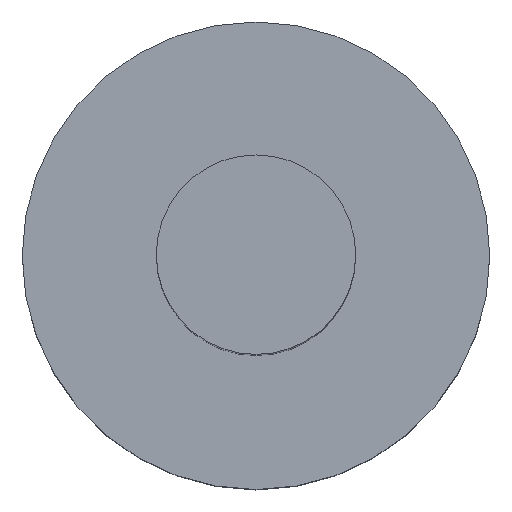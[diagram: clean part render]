
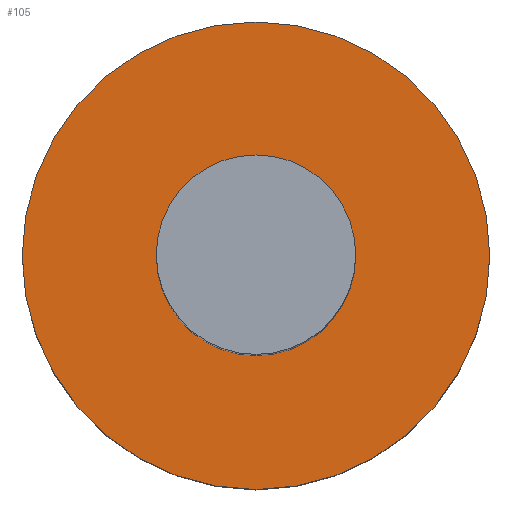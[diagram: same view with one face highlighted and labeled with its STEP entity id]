
A CAD part, top view. The second image highlights one B-rep face of the part: STEP entity #105.
In plain terms, the highlighted planar face has unit normal (0, 0, 1).
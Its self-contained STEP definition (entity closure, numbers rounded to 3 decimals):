
#21 = EDGE_CURVE('',#22,#22,#24,.T.);
#22 = VERTEX_POINT('',#23);
#23 = CARTESIAN_POINT('',(1.5,4.,-14.95));
#24 = SURFACE_CURVE('',#25,(#30,#42),.PCURVE_S1.);
#25 = CIRCLE('',#26,1.5);
#26 = AXIS2_PLACEMENT_3D('',#27,#28,#29);
#27 = CARTESIAN_POINT('',(0.,4.,-14.95));
#28 = DIRECTION('',(0.,0.,1.));
#29 = DIRECTION('',(1.,0.,-0.));
#30 = PCURVE('',#31,#36);
#31 = CYLINDRICAL_SURFACE('',#32,1.5);
#32 = AXIS2_PLACEMENT_3D('',#33,#34,#35);
#33 = CARTESIAN_POINT('',(0.,4.,-16.55));
#34 = DIRECTION('',(0.,0.,1.));
#35 = DIRECTION('',(1.,0.,-0.));
#36 = DEFINITIONAL_REPRESENTATION('',(#37),#41);
#37 = LINE('',#38,#39);
#38 = CARTESIAN_POINT('',(0.,1.6));
#39 = VECTOR('',#40,1.);
#40 = DIRECTION('',(1.,0.));
#41 = ( GEOMETRIC_REPRESENTATION_CONTEXT(2) 
PARAMETRIC_REPRESENTATION_CONTEXT() REPRESENTATION_CONTEXT('2D SPACE',''
  ) );
#42 = PCURVE('',#43,#48);
#43 = PLANE('',#44);
#44 = AXIS2_PLACEMENT_3D('',#45,#46,#47);
#45 = CARTESIAN_POINT('',(0.,4.,-14.95));
#46 = DIRECTION('',(0.,0.,1.));
#47 = DIRECTION('',(1.,0.,-0.));
#48 = DEFINITIONAL_REPRESENTATION('',(#49),#53);
#49 = CIRCLE('',#50,1.5);
#50 = AXIS2_PLACEMENT_2D('',#51,#52);
#51 = CARTESIAN_POINT('',(0.,0.));
#52 = DIRECTION('',(1.,0.));
#53 = ( GEOMETRIC_REPRESENTATION_CONTEXT(2) 
PARAMETRIC_REPRESENTATION_CONTEXT() REPRESENTATION_CONTEXT('2D SPACE',''
  ) );
#105 = ADVANCED_FACE('',(#106,#109),#43,.T.);
#106 = FACE_BOUND('',#107,.T.);
#107 = EDGE_LOOP('',(#108));
#108 = ORIENTED_EDGE('',*,*,#21,.T.);
#109 = FACE_BOUND('',#110,.T.);
#110 = EDGE_LOOP('',(#111));
#111 = ORIENTED_EDGE('',*,*,#112,.F.);
#112 = EDGE_CURVE('',#113,#113,#115,.T.);
#113 = VERTEX_POINT('',#114);
#114 = CARTESIAN_POINT('',(0.64,4.,-14.95));
#115 = SURFACE_CURVE('',#116,(#121,#128),.PCURVE_S1.);
#116 = CIRCLE('',#117,0.64);
#117 = AXIS2_PLACEMENT_3D('',#118,#119,#120);
#118 = CARTESIAN_POINT('',(0.,4.,-14.95));
#119 = DIRECTION('',(0.,0.,1.));
#120 = DIRECTION('',(1.,0.,-0.));
#121 = PCURVE('',#43,#122);
#122 = DEFINITIONAL_REPRESENTATION('',(#123),#127);
#123 = CIRCLE('',#124,0.64);
#124 = AXIS2_PLACEMENT_2D('',#125,#126);
#125 = CARTESIAN_POINT('',(0.,0.));
#126 = DIRECTION('',(1.,0.));
#127 = ( GEOMETRIC_REPRESENTATION_CONTEXT(2) 
PARAMETRIC_REPRESENTATION_CONTEXT() REPRESENTATION_CONTEXT('2D SPACE',''
  ) );
#128 = PCURVE('',#129,#134);
#129 = CYLINDRICAL_SURFACE('',#130,0.64);
#130 = AXIS2_PLACEMENT_3D('',#131,#132,#133);
#131 = CARTESIAN_POINT('',(0.,4.,-14.95));
#132 = DIRECTION('',(0.,0.,1.));
#133 = DIRECTION('',(1.,0.,-0.));
#134 = DEFINITIONAL_REPRESENTATION('',(#135),#139);
#135 = LINE('',#136,#137);
#136 = CARTESIAN_POINT('',(0.,0.));
#137 = VECTOR('',#138,1.);
#138 = DIRECTION('',(1.,0.));
#139 = ( GEOMETRIC_REPRESENTATION_CONTEXT(2) 
PARAMETRIC_REPRESENTATION_CONTEXT() REPRESENTATION_CONTEXT('2D SPACE',''
  ) );
